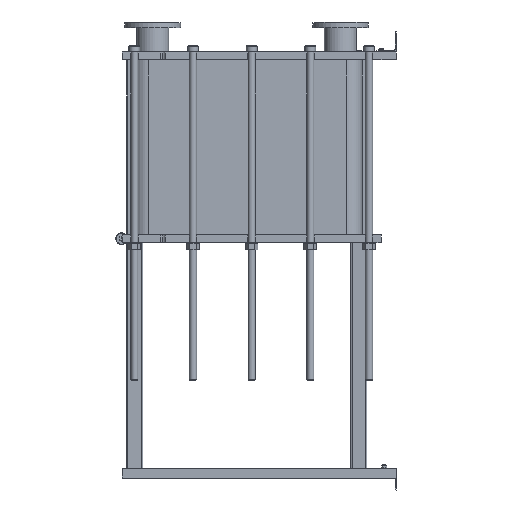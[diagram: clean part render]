
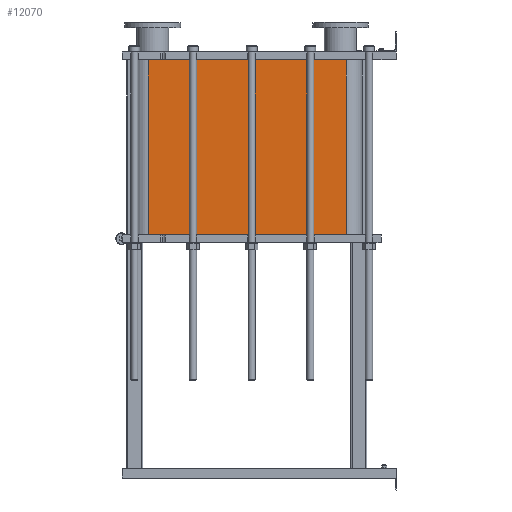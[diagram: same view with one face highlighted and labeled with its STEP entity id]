
A CAD part, left-side view. The second image highlights one B-rep face of the part: STEP entity #12070.
In plain terms, the highlighted planar face has unit normal (-1, 0, 0).
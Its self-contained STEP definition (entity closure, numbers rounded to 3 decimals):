
#1064=LINE('',#21140,#2164);
#1065=LINE('',#21144,#2165);
#1066=LINE('',#21146,#2166);
#1067=LINE('',#21147,#2167);
#2164=VECTOR('',#15790,10.);
#2165=VECTOR('',#15795,10.);
#2166=VECTOR('',#15796,10.);
#2167=VECTOR('',#15797,10.);
#3304=FACE_OUTER_BOUND('',#4091,.T.);
#4091=EDGE_LOOP('',(#9793,#9794,#9795,#9796));
#5677=VERTEX_POINT('',#21137);
#5678=VERTEX_POINT('',#21139);
#5679=VERTEX_POINT('',#21143);
#5680=VERTEX_POINT('',#21145);
#7118=EDGE_CURVE('',#5678,#5677,#1064,.T.);
#7120=EDGE_CURVE('',#5677,#5679,#1065,.T.);
#7121=EDGE_CURVE('',#5680,#5679,#1066,.T.);
#7122=EDGE_CURVE('',#5680,#5678,#1067,.T.);
#9793=ORIENTED_EDGE('',*,*,#7120,.T.);
#9794=ORIENTED_EDGE('',*,*,#7121,.F.);
#9795=ORIENTED_EDGE('',*,*,#7122,.T.);
#9796=ORIENTED_EDGE('',*,*,#7118,.T.);
#11441=PLANE('',#13191);
#12070=ADVANCED_FACE('',(#3304),#11441,.T.);
#13191=AXIS2_PLACEMENT_3D('',#21142,#15793,#15794);
#15790=DIRECTION('',(0.,0.,-1.));
#15793=DIRECTION('center_axis',(-1.,0.,0.));
#15794=DIRECTION('ref_axis',(0.,1.,0.));
#15795=DIRECTION('',(0.,-1.,0.));
#15796=DIRECTION('',(0.,0.,-1.));
#15797=DIRECTION('',(0.,1.,0.));
#21137=CARTESIAN_POINT('',(-248.152,1243.818,-876.3));
#21139=CARTESIAN_POINT('',(-248.152,1243.818,0.));
#21140=CARTESIAN_POINT('',(-248.152,1243.818,0.));
#21142=CARTESIAN_POINT('Origin',(-248.152,251.818,0.));
#21143=CARTESIAN_POINT('',(-248.152,251.818,-876.3));
#21144=CARTESIAN_POINT('',(-248.152,499.818,-876.3));
#21145=CARTESIAN_POINT('',(-248.152,251.818,0.));
#21146=CARTESIAN_POINT('',(-248.152,251.818,0.));
#21147=CARTESIAN_POINT('',(-248.152,251.818,0.));
